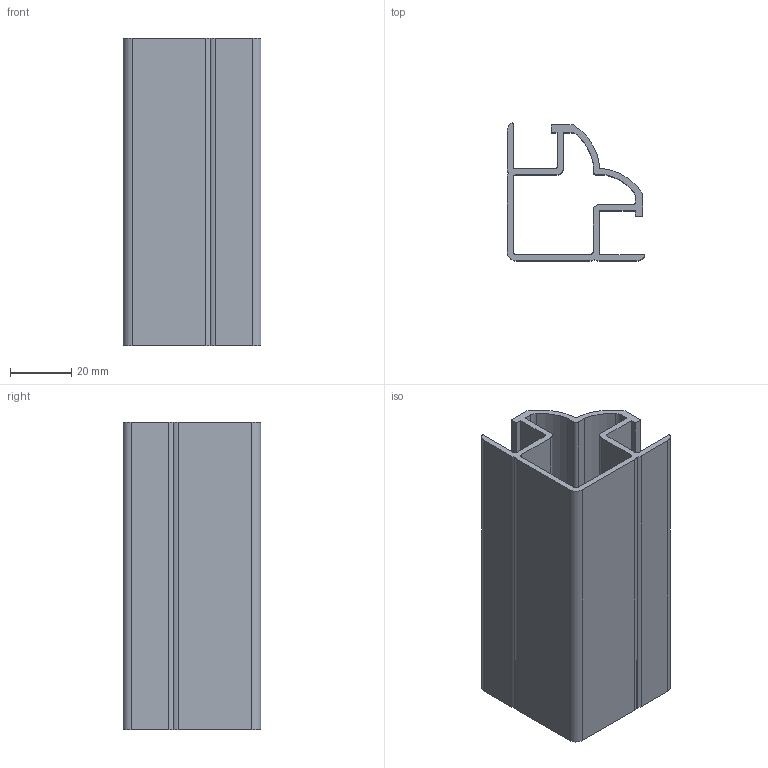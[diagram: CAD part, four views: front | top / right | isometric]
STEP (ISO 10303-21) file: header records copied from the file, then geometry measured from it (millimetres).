
FILE_DESCRIPTION (( 'STEP AP203' ), '1' );
FILE_NAME ('013.030.008.STEP', '2020-09-18T14:20:59', ( '' ), ( '' ), 'SwSTEP 2.0', 'SolidWorks 2018', '' );
FILE_SCHEMA (( 'CONFIG_CONTROL_DESIGN' ));
Length unit declared in the file: millimetre
Products named in the file (1): 013.030.008
Bounding box: 44.9 x 44.9 x 100 mm (x, y, z)
Volume: 37872.5 mm3; surface area: 38286 mm2
Topology: 1 solids, 1 shells, 64 faces, 186 edges, 124 vertices
Faces by surface type: cylinder 32, plane 30, bspline 2
Entity records: 2227 total; most frequent: CARTESIAN_POINT 401, ORIENTED_EDGE 372, DIRECTION 372, EDGE_CURVE 186, AXIS2_PLACEMENT_3D 127, VERTEX_POINT 124, VECTOR 118, LINE 118
